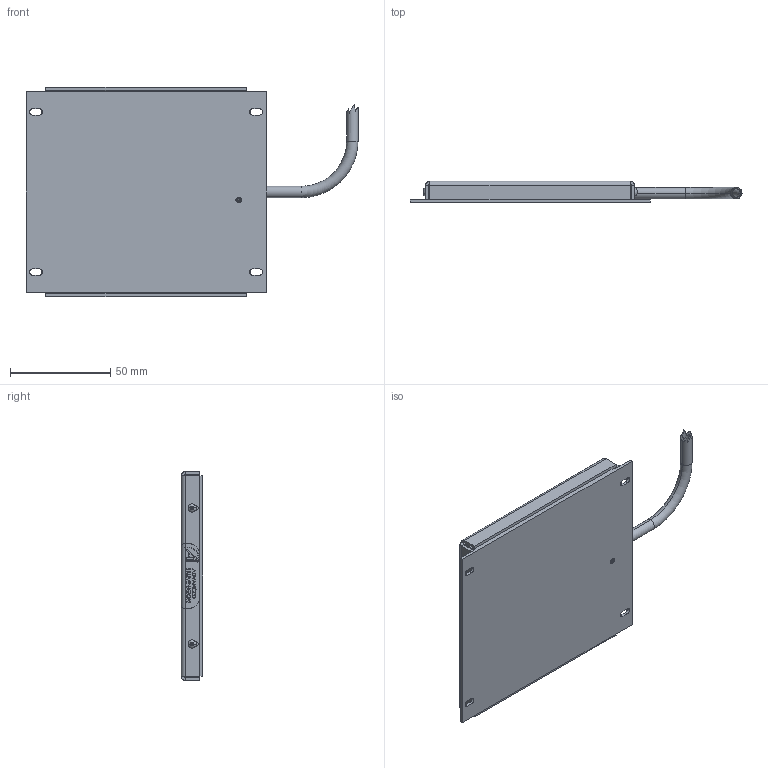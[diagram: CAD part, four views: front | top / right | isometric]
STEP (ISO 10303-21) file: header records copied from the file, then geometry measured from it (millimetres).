
FILE_DESCRIPTION (( 'STEP AP214' ), '1' );
FILE_NAME ('BT100100_Default.stp', '2021-05-04T13:44:46', ( '' ), ( '' ), 'SwSTEP 2.0', 'SolidWorks 2018', '' );
FILE_SCHEMA (( 'AUTOMOTIVE_DESIGN' ));
Length unit declared in the file: inch
Products named in the file (9): BT100100_Default; 097865_97763A314; 093470_DEFAULT; 092408_TRUNCATED; 092769_Flat; 90073A011; 093307_Default<As Machined>; 092824_Default<As Machined>; 091052 (BT200100)
Assembly tree (12 placements, depth 2):
  BT100100_Default
    092824_Default<As Machined>
    90073A011
    093307_Default<As Machined>
    092769_Flat
    097865_97763A314  x5
    093470_DEFAULT
    091052 (BT200100)
    092408_TRUNCATED
Bounding box: 165.94 x 10.79 x 104.57 mm (x, y, z)
Volume: 50410.8 mm3; surface area: 68843.3 mm2
Topology: 19 solids, 19 shells, 827 faces, 2078 edges, 1313 vertices
Faces by surface type: plane 386, cylinder 240, cone 108, bspline 79, sphere 10, torus 4
Entity records: 33333 total; most frequent: CARTESIAN_POINT 15833, ORIENTED_EDGE 2948, DIRECTION 2483, EDGE_CURVE 1474, VERTEX_POINT 953, VECTOR 933, LINE 933, AXIS2_PLACEMENT_3D 775
